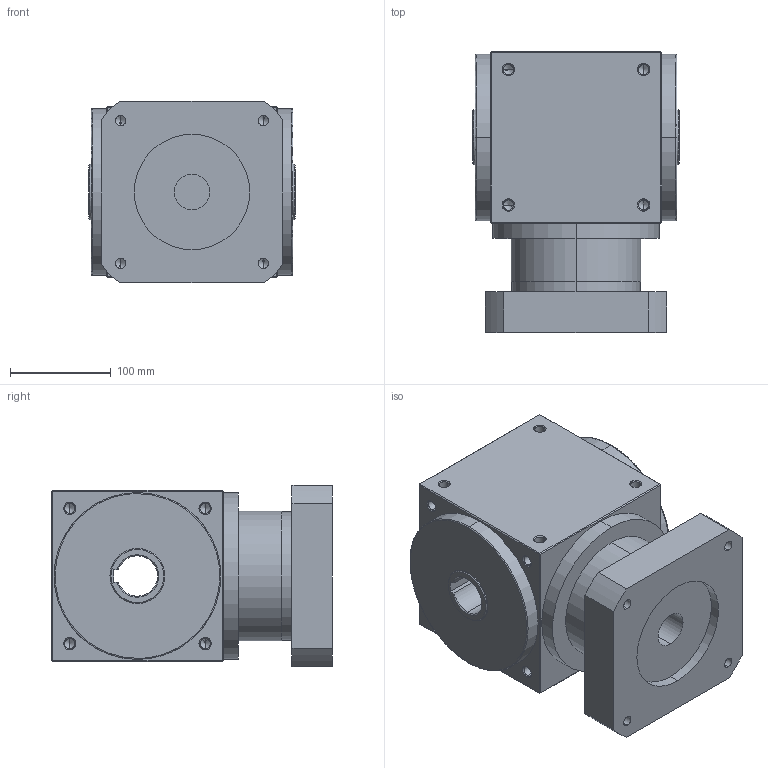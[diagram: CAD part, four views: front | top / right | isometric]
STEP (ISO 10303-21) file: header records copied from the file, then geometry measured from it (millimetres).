
FILE_DESCRIPTION (( 'STEP AP214' ), '1' );
FILE_NAME ('AT170-FH-001 35-114.3-200-M12.STEP', '2024-06-11T03:00:31', ( '微软用户' ), ( '微软中国' ), 'SwSTEP 2.0', 'SolidWorks 2021', '' );
FILE_SCHEMA (( 'AUTOMOTIVE_DESIGN' ));
Length unit declared in the file: millimetre
Products named in the file (1): AT170-FH-001 35-114.3-200-M12
Bounding box: 204 x 278 x 180 mm (x, y, z)
Volume: 7343373.6 mm3; surface area: 335848.4 mm2
Topology: 1 solids, 1 shells, 257 faces, 653 edges, 360 vertices
Faces by surface type: cylinder 113, cone 97, plane 43, bspline 4
Entity records: 8349 total; most frequent: CARTESIAN_POINT 1643, ORIENTED_EDGE 1210, DIRECTION 1201, EDGE_CURVE 605, AXIS2_PLACEMENT_3D 462, VERTEX_POINT 360, EDGE_LOOP 293, VECTOR 277
